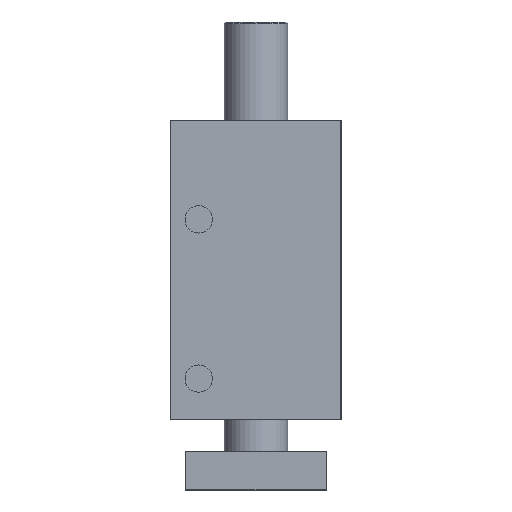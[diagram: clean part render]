
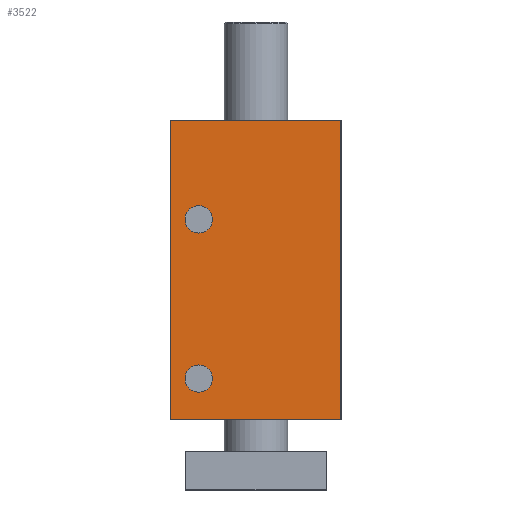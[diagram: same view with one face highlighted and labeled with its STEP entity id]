
A CAD part, front view. The second image highlights one B-rep face of the part: STEP entity #3522.
In plain terms, the highlighted planar face has unit normal (0, -1, 0).
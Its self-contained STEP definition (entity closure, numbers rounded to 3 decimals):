
#255=CARTESIAN_POINT('',(-27.0,-60.0,0.0));
#256=VERTEX_POINT('',#255);
#263=CARTESIAN_POINT('',(-27.0,-60.0,94.0));
#264=VERTEX_POINT('',#263);
#265=CARTESIAN_POINT('',(-27.0,-60.0,0.0));
#266=DIRECTION('',(0.0,0.0,1.0));
#267=VECTOR('',#266,94.0);
#268=LINE('',#265,#267);
#269=EDGE_CURVE('',#256,#264,#268,.T.);
#971=CARTESIAN_POINT('',(26.5,-60.0,0.0));
#972=VERTEX_POINT('',#971);
#979=CARTESIAN_POINT('',(-27.0,-60.0,0.0));
#980=DIRECTION('',(1.0,0.0,0.0));
#981=VECTOR('',#980,53.5);
#982=LINE('',#979,#981);
#983=EDGE_CURVE('',#256,#972,#982,.T.);
#2359=CARTESIAN_POINT('',(-13.717,-60.0,63.0));
#2360=VERTEX_POINT('',#2359);
#2361=CARTESIAN_POINT('',(-18.0,-60.0,63.0));
#2362=DIRECTION('',(0.0,1.0,0.0));
#2363=DIRECTION('',(1.0,0.0,0.0));
#2364=AXIS2_PLACEMENT_3D('',#2361,#2362,#2363);
#2365=CIRCLE('',#2364,4.283);
#2366=EDGE_CURVE('',#2360,#2360,#2365,.T.);
#2396=CARTESIAN_POINT('',(-13.717,-60.0,13.));
#2397=VERTEX_POINT('',#2396);
#2398=CARTESIAN_POINT('',(-18.0,-60.0,13.));
#2399=DIRECTION('',(0.0,1.0,0.0));
#2400=DIRECTION('',(1.0,0.0,0.0));
#2401=AXIS2_PLACEMENT_3D('',#2398,#2399,#2400);
#2402=CIRCLE('',#2401,4.283);
#2403=EDGE_CURVE('',#2397,#2397,#2402,.T.);
#3481=CARTESIAN_POINT('',(26.5,-60.0,94.0));
#3482=VERTEX_POINT('',#3481);
#3489=CARTESIAN_POINT('',(26.5,-60.0,0.0));
#3490=DIRECTION('',(0.0,0.0,1.0));
#3491=VECTOR('',#3490,94.0);
#3492=LINE('',#3489,#3491);
#3493=EDGE_CURVE('',#972,#3482,#3492,.T.);
#3500=CARTESIAN_POINT('',(26.5,-60.0,0.0));
#3501=DIRECTION('',(0.0,-1.0,0.0));
#3502=DIRECTION('',(0.0,0.0,-1.0));
#3503=AXIS2_PLACEMENT_3D('',#3500,#3501,#3502);
#3504=PLANE('',#3503);
#3505=CARTESIAN_POINT('',(26.5,-60.0,94.0));
#3506=DIRECTION('',(-1.0,0.0,0.0));
#3507=VECTOR('',#3506,53.5);
#3508=LINE('',#3505,#3507);
#3509=EDGE_CURVE('',#3482,#264,#3508,.T.);
#3510=ORIENTED_EDGE('',*,*,#3509,.T.);
#3511=ORIENTED_EDGE('',*,*,#269,.F.);
#3512=ORIENTED_EDGE('',*,*,#983,.T.);
#3513=ORIENTED_EDGE('',*,*,#3493,.T.);
#3514=EDGE_LOOP('',(#3510,#3511,#3512,#3513));
#3515=FACE_OUTER_BOUND('',#3514,.T.);
#3516=ORIENTED_EDGE('',*,*,#2366,.T.);
#3517=EDGE_LOOP('',(#3516));
#3518=FACE_BOUND('',#3517,.T.);
#3519=ORIENTED_EDGE('',*,*,#2403,.T.);
#3520=EDGE_LOOP('',(#3519));
#3521=FACE_BOUND('',#3520,.T.);
#3522=ADVANCED_FACE('',(#3515,#3518,#3521),#3504,.T.);
